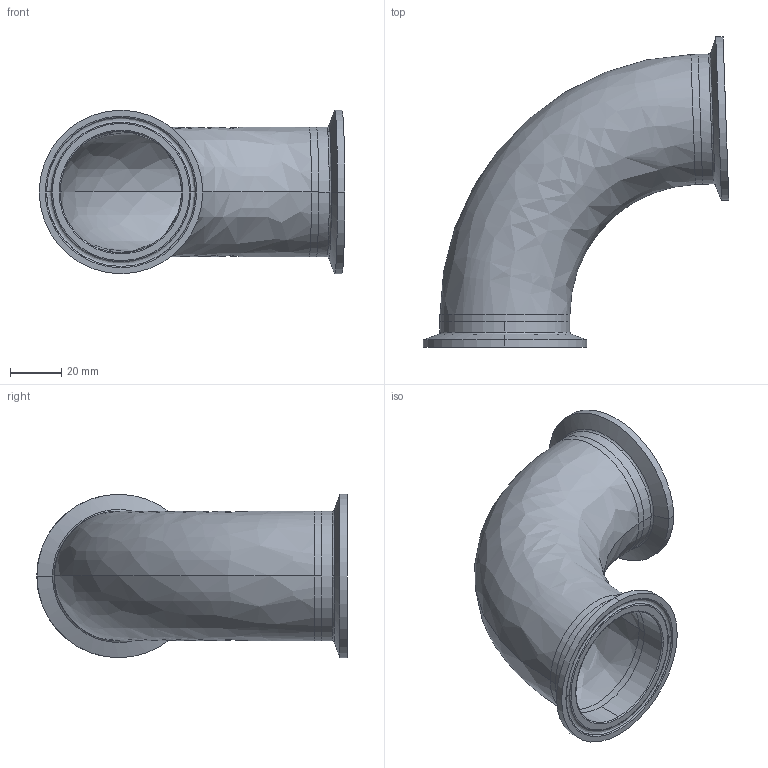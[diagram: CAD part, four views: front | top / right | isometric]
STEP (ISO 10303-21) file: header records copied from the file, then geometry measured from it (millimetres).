
FILE_DESCRIPTION (( 'STEP AP214' ), '1' );
FILE_NAME ('TEG2C886L2.0-...STEP', '2016-05-22T09:22:40', ( 'eran' ), ( '' ), 'SwSTEP 2.0', 'SolidWorks 2016', '' );
FILE_SCHEMA (( 'AUTOMOTIVE_DESIGN' ));
Length unit declared in the file: millimetre
Products named in the file (1): TEG2C886L2.0-..
Bounding box: 119.43 x 121.34 x 63.91 mm (x, y, z)
Volume: 45329.8 mm3; surface area: 50028.7 mm2
Topology: 3 solids, 3 shells, 64 faces, 156 edges, 100 vertices
Faces by surface type: bspline 24, cylinder 20, cone 12, plane 8
Entity records: 3255 total; most frequent: CARTESIAN_POINT 1699, DIRECTION 338, ORIENTED_EDGE 312, EDGE_CURVE 156, AXIS2_PLACEMENT_3D 153, CIRCLE 112, VERTEX_POINT 100, EDGE_LOOP 72
